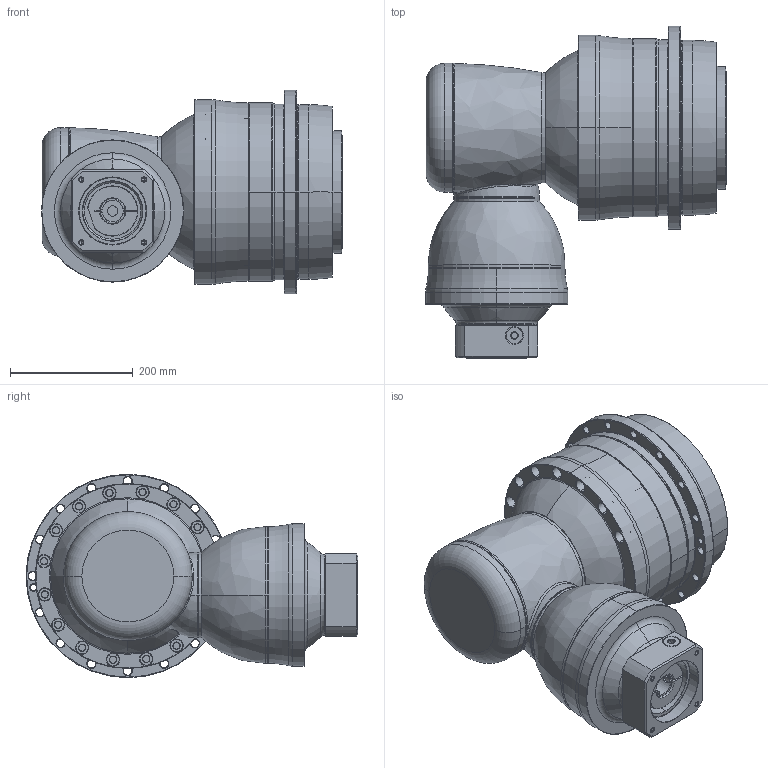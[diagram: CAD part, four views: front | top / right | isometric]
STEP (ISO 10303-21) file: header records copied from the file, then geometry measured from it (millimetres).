
FILE_DESCRIPTION((''),'2;1');
FILE_NAME('AHK285_4ST_35-P0409800101_ASM','2016-08-23T',('d01943'),(''),'PRO/ENGINEER BY PARAMETRIC TECHNOLOGY CORPORATION, 2008410','PRO/ENGINEER BY PARAMETRIC TECHNOLOGY CORPORATION, 2008410','');
FILE_SCHEMA(('CONFIG_CONTROL_DESIGN'));
Length unit declared in the file: millimetre
Products named in the file (12): P1008600002; P1832800001; P0278800003; P0359800003; P1315600001; P1007600001; P1317600301; P0409800101; P0503800012; P0912503201; 21711422019; AHK285_4ST_35-P0409800101_ASM
Assembly tree (11 placements, depth 2):
  AHK285_4ST_35-P0409800101_ASM
    P1008600002
    P1832800001
    P0278800003
    P0359800003
    P1315600001
    P1007600001
    P1317600301
    P0409800101
    P0503800012
    P0912503201
    21711422019
Bounding box: 491 x 541.5 x 332 mm (x, y, z)
Volume: 23658831.9 mm3; surface area: 1647731 mm2
Topology: 12 solids, 12 shells, 1061 faces, 2391 edges, 1379 vertices
Faces by surface type: cone 382, cylinder 370, plane 142, torus 126, bspline 39, sphere 2
Entity records: 36225 total; most frequent: CARTESIAN_POINT 11946, DIRECTION 5582, ORIENTED_EDGE 4638, AXIS2_PLACEMENT_3D 2379, EDGE_CURVE 2319, VERTEX_POINT 1379, CIRCLE 1334, EDGE_LOOP 1256
